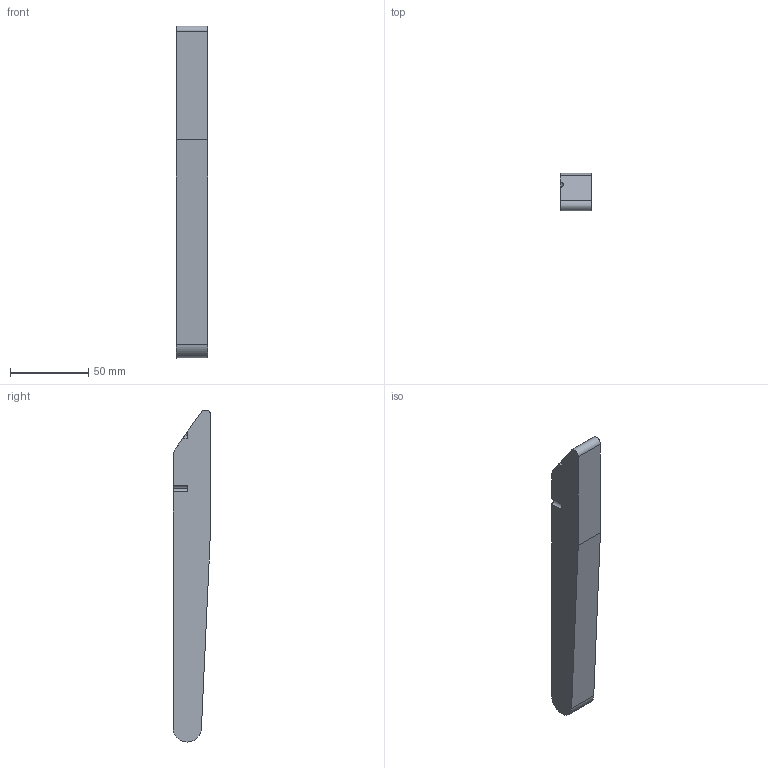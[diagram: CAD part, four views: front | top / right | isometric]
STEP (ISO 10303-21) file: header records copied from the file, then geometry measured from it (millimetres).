
FILE_DESCRIPTION(('CATIA V5 STEP Exchange'),'2;1');
FILE_NAME('C:\Users\Hashaam\Documents\CAD_Project\review\pedal_current.stp','2026-10-06T14:23:43+00:00',('none'),('none'),'CATIA Version 5 Release 21 GA (IN-10)','CATIA V5 STEP AP203','none');
FILE_SCHEMA(('CONFIG_CONTROL_DESIGN'));
Length unit declared in the file: millimetre
Products named in the file (1): Part11
Bounding box: 20 x 24 x 211.58 mm (x, y, z)
Volume: 86826.5 mm3; surface area: 17569.2 mm2
Topology: 1 solids, 1 shells, 15 faces, 41 edges, 30 vertices
Faces by surface type: plane 8, cylinder 7
Entity records: 535 total; most frequent: CARTESIAN_POINT 114, ORIENTED_EDGE 82, DIRECTION 67, EDGE_CURVE 41, AXIS2_PLACEMENT_3D 29, VERTEX_POINT 28, VECTOR 25, LINE 25
